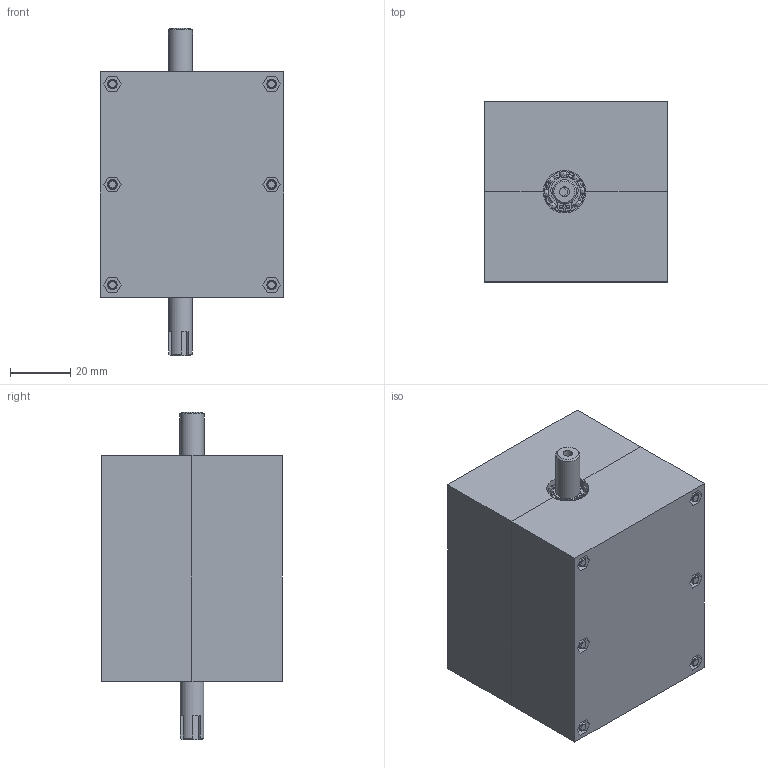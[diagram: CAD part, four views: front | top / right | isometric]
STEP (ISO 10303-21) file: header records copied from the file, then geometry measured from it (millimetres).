
FILE_DESCRIPTION(/* description */ (''),/* implementation_level */ '2;1');
FILE_NAME(/* name */ 'Gearless reducer.stp',/* time_stamp */ '2026-02-15T20:05:02+01:00',/* author */ ('R5800u'),/* organization */ (''),/* preprocessor_version */ 'ST-DEVELOPER v20',/* originating_system */ 'Autodesk Inventor 2025',/* authorisation */ '');
FILE_SCHEMA (('AUTOMOTIVE_DESIGN { 1 0 10303 214 3 1 1 }'));
Length unit declared in the file: millimetre
Products named in the file (15): Assembly2; %3% BS 290 - SKF 618/8; base_inferiore; UNI 7435-75 - 7; base_inferiore_MIR; Shaft1; blocco_asse2; %3% BS 290 - SKF 623; disco1; blocco_asse; Shaft_2; AS 1237 - 3; ANSI B18.3.1M - M3x0,5 x 40, FSHCSM; vite_testa_piatta_m3_8mm; vite_testa_piatta_m3_12mm
Assembly tree (43 placements, depth 2):
  Assembly2
    %3% BS 290 - SKF 618/8  x3
    base_inferiore
    %3% BS 290 - SKF 623  x4
    UNI 7435-75 - 7  x2
    base_inferiore_MIR
    Shaft1
    blocco_asse2
    disco1  x2
    blocco_asse
    Shaft_2
    AS 1237 - 3  x8
    ANSI B18.3.1M - M3x0,5 x 40, FSHCSM  x6
    vite_testa_piatta_m3_8mm  x4
    vite_testa_piatta_m3_12mm  x8
Bounding box: 61 x 60 x 109 mm (x, y, z)
Volume: 165841.9 mm3; surface area: 86451.9 mm2
Topology: 43 solids, 43 shells, 1009 faces, 2785 edges, 1853 vertices
Faces by surface type: plane 506, cylinder 254, torus 176, sphere 44, cone 29
Full cylindrical faces by diameter (mm): 1.2 x4, 3 x22, 3.2 x44, 5.24 x8, 5.5 x6, 5.6 x1, 5.7 x6, 6 x22, 7.76 x8, 8 x8, 10 x4, 10.56 x6, 12 x2, 13.44 x6, 16 x3, 43 x2
Entity records: 18398 total; most frequent: CARTESIAN_POINT 4354, DIRECTION 2847, ORIENTED_EDGE 2726, EDGE_CURVE 1363, AXIS2_PLACEMENT_3D 1039, VERTEX_POINT 922, LINE 769, VECTOR 769
